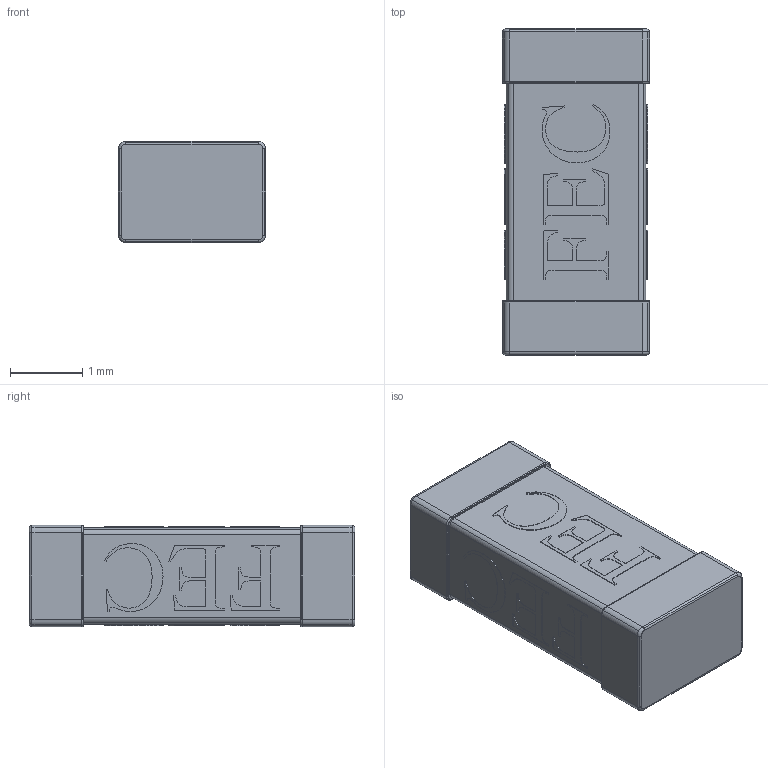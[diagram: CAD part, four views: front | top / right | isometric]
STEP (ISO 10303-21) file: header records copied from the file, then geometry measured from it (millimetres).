
FILE_DESCRIPTION(('STEP AP214'),'1');
FILE_NAME('tmp0.step','2023-08-07T01:07:08',(' '),(' '),'Spatial InterOp 3D',' ',' ');
FILE_SCHEMA(('AUTOMOTIVE_DESIGN { 1 0 10303 214 1 1 1 1 }'));
Length unit declared in the file: millimetre
Products named in the file (1): 1
Bounding box: 2.03 x 4.5 x 1.4 mm (x, y, z)
Volume: 11.9 mm3; surface area: 50.4 mm2
Topology: 15 solids, 15 shells, 1102 faces, 3184 edges, 2112 vertices
Faces by surface type: plane 1030, cylinder 56, torus 16
Entity records: 35714 total; most frequent: CARTESIAN_POINT 6413, ORIENTED_EDGE 6368, DIRECTION 5546, EDGE_CURVE 3184, LINE 3056, VECTOR 3056, VERTEX_POINT 2112, AXIS2_PLACEMENT_3D 1245
